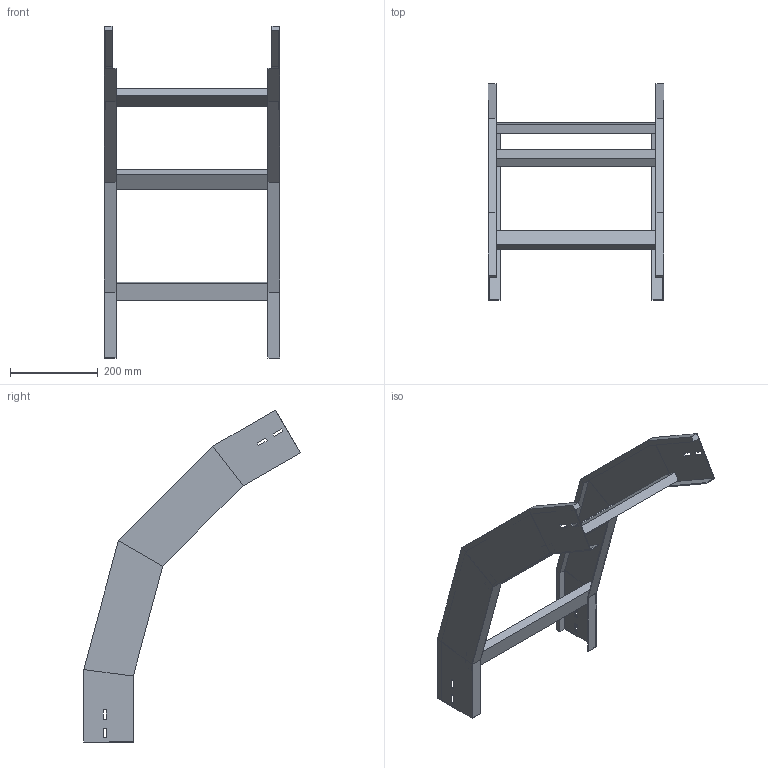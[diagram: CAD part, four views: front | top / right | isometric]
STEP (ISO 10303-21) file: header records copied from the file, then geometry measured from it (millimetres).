
FILE_DESCRIPTION (( 'STEP AP214' ), '1' );
FILE_NAME ('41B5J400.step', '2025-02-21T14:57:46', ( '' ), ( '' ), 'SwSTEP 2.0', 'SolidWorks 2023', '' );
FILE_SCHEMA (( 'AUTOMOTIVE_DESIGN' ));
Length unit declared in the file: millimetre
Products named in the file (3): 41B5J400; TRAVERSINO_400; LONGH.DISCESA_60°_H112.5_R500
Assembly tree (5 placements, depth 2):
  41B5J400
    LONGH.DISCESA_60°_H112.5_R500  x2
    TRAVERSINO_400  x3
Bounding box: 400 x 492.58 x 755.74 mm (x, y, z)
Volume: 1794281.3 mm3; surface area: 692457.2 mm2
Topology: 5 solids, 5 shells, 118 faces, 276 edges, 168 vertices
Faces by surface type: plane 118
Entity records: 1672 total; most frequent: CARTESIAN_POINT 276, ORIENTED_EDGE 264, DIRECTION 260, LINE 132, EDGE_CURVE 132, VECTOR 132, VERTEX_POINT 80, AXIS2_PLACEMENT_3D 64
